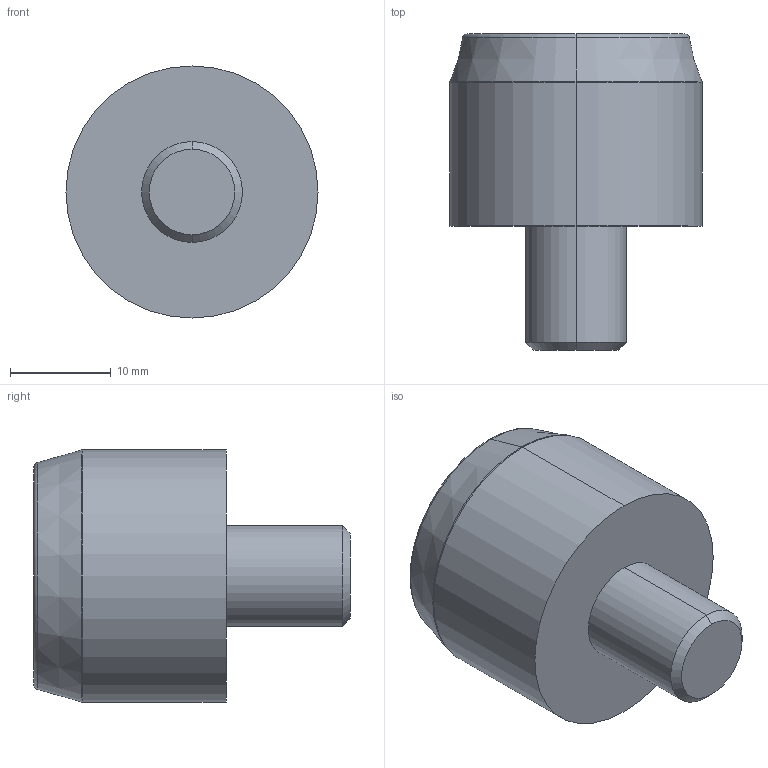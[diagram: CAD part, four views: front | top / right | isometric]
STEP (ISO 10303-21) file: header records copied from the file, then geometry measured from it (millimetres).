
FILE_DESCRIPTION (( 'STEP AP214' ), '1' );
FILE_NAME ('SE-25mm-4.8mm-S-A.stp', '2014-06-25T14:20:00', ( 'admin' ), ( '' ), 'SwSTEP 2.0', 'SolidWorks 2011', '' );
FILE_SCHEMA (( 'AUTOMOTIVE_DESIGN' ));
Length unit declared in the file: inch
Products named in the file (1): SE-25mm-4.8mm-S-A
Bounding box: 25 x 31.35 x 25 mm (x, y, z)
Volume: 9743.3 mm3; surface area: 2844.1 mm2
Topology: 1 solids, 1 shells, 25 faces, 52 edges, 32 vertices
Faces by surface type: plane 11, cylinder 6, cone 4, torus 4
Entity records: 706 total; most frequent: DIRECTION 128, CARTESIAN_POINT 110, ORIENTED_EDGE 104, EDGE_CURVE 52, AXIS2_PLACEMENT_3D 50, VERTEX_POINT 32, LINE 28, EDGE_LOOP 28
